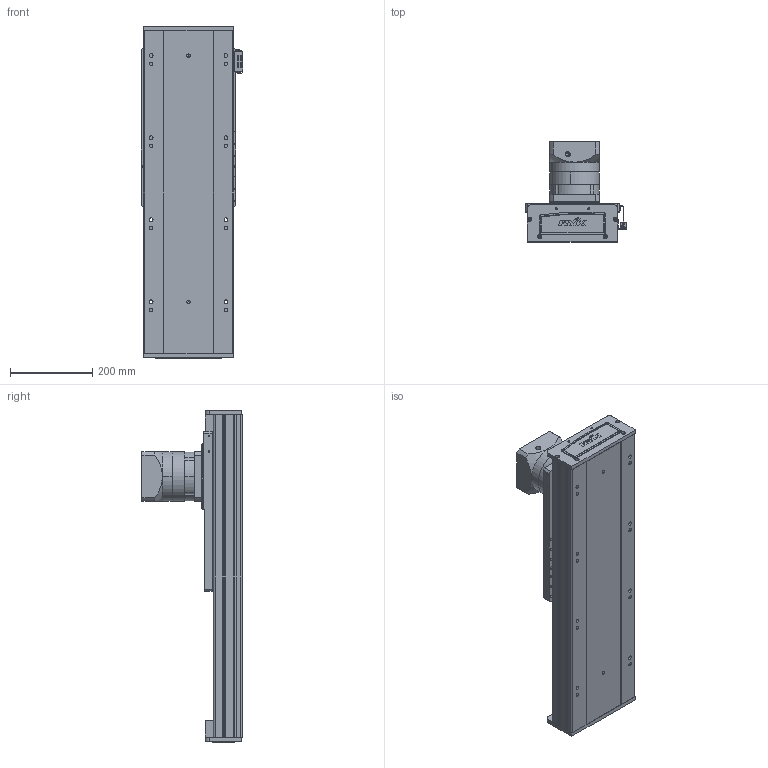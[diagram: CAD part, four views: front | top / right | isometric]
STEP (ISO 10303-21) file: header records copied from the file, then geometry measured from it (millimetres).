
FILE_DESCRIPTION (( 'STEP AP203' ), '1' );
FILE_NAME ('RY220-C-300-UK.SLDASM_默认.step', '2022-08-01T05:58:22', ( '' ), ( '' ), 'SwSTEP 2.0', 'SolidWorks 2016', '' );
FILE_SCHEMA (( 'CONFIG_CONTROL_DESIGN' ));
Length unit declared in the file: millimetre
Products named in the file (10): RY220喘沭俋离覜茼え; 覜茼ん674; 滅袉蝶輸ㄗG412隅秶ㄘ; RY220-C-300-UK.SLDASM_默认; RY220喘沭綴裔啣; RY220菁釱MK-300; RY140直线电机感应器674光电安装座; PF115L1-S2-22-58-110-145-M8; RY220-齿条模组电机安装板; RY220喘沭賑輸
Assembly tree (12 placements, depth 2):
  RY220-C-300-UK.SLDASM_默认
    RY220菁釱MK-300
    RY220喘沭賑輸
    RY220-齿条模组电机安装板
    PF115L1-S2-22-58-110-145-M8
    RY220喘沭綴裔啣  x2
    滅袉蝶輸ㄗG412隅秶ㄘ  x2
    RY140直线电机感应器674光电安装座
    覜茼ん674  x2
    RY220喘沭俋离覜茼え
Bounding box: 247 x 244.5 x 809 mm (x, y, z)
Volume: 8630451.9 mm3; surface area: 1605342 mm2
Topology: 18 solids, 26 shells, 1798 faces, 4797 edges, 3091 vertices
Faces by surface type: cylinder 783, plane 751, bspline 162, cone 102
Entity records: 56517 total; most frequent: CARTESIAN_POINT 15705, ORIENTED_EDGE 8290, DIRECTION 8243, EDGE_CURVE 4145, AXIS2_PLACEMENT_3D 3097, VERTEX_POINT 2717, LINE 2049, VECTOR 2049
